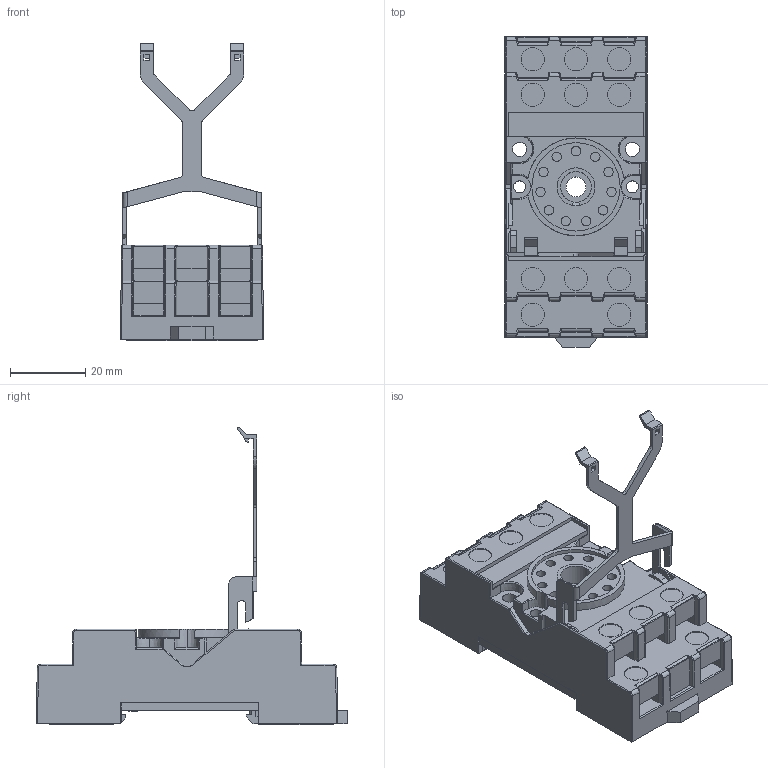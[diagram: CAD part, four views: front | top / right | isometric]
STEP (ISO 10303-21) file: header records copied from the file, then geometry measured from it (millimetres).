
FILE_DESCRIPTION (( 'STEP AP214' ), '1' );
FILE_NAME ('S3-S.STEP', '2024-04-11T06:20:48', ( '' ), ( '' ), 'SwSTEP 2.0', 'SolidWorks 2022', '' );
FILE_SCHEMA (( 'AUTOMOTIVE_DESIGN' ));
Length unit declared in the file: millimetre
Products named in the file (1): S3-S
Bounding box: 38 x 82.65 x 79.1 mm (x, y, z)
Volume: 56547.4 mm3; surface area: 19108.1 mm2
Topology: 1 solids, 9 shells, 756 faces, 1998 edges, 1286 vertices
Faces by surface type: plane 437, cylinder 254, bspline 32, cone 20, torus 7, sphere 6
Entity records: 30344 total; most frequent: CARTESIAN_POINT 5439, ORIENTED_EDGE 3996, DIRECTION 3569, EDGE_CURVE 1998, LINE 1357, VECTOR 1357, VERTEX_POINT 1286, AXIS2_PLACEMENT_3D 1106
